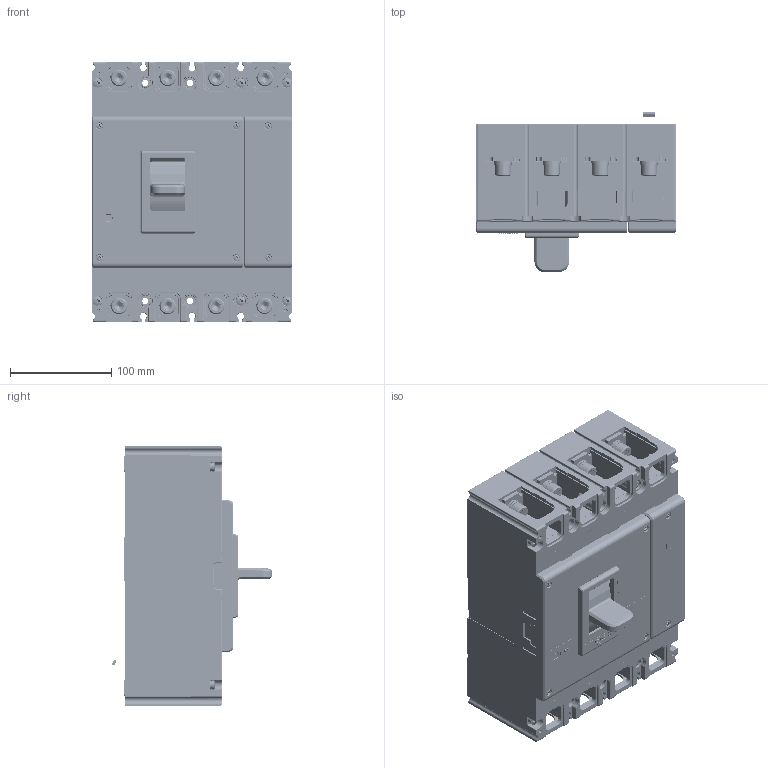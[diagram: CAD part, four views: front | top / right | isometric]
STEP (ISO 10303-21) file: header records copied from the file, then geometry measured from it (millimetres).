
FILE_DESCRIPTION((''),'2;1');
FILE_NAME('CDM3V-400-4300-400A_ASM','2021-06-18T',('zhenjiang.nong'),(''),'PRO/ENGINEER BY PARAMETRIC TECHNOLOGY CORPORATION, 2015440','PRO/ENGINEER BY PARAMETRIC TECHNOLOGY CORPORATION, 2015440','');
FILE_SCHEMA(('CONFIG_CONTROL_DESIGN'));
Products named in the file (81): JZ_5024044200_1; GB_T809-M5X16_2; 5024044200_ASM_1_ASM; 8940007800_2; MANIFOLD_SOLID_BREP_118325; MANIFOLD_SOLID_BREP_118465; 8551044200_2_ASM; 8595009000_2; GB_T109-3X6_AF0_2; 8550073900_2; 5551102500_AF2_ASM_2_ASM; 5551102500_AF3_ASM_2_ASM; GB_T109-3X6_AF1_2; 5551102500_AF0_ASM_2_ASM; GB_T109-3X6_AF2_2; 5551102500_AF1_ASM_2_ASM; 8585075300_1; MANIFOLD_SOLID_BREP_122314; MANIFOLD_SOLID_BREP_122464; 8505024500_1_ASM; 8585064700_1; 5510025000_ASM_1_ASM; 5203020000_ASM_1_ASM; 5551070600_ASM_2_ASM; MANIFOLD_SOLID_BREP_156627; 85050243P01_2_ASM; 8420028400_2; 8615032400_2; 8421200300_2; 7130130206_GB_T109_3X12_AF0_2; 7130130206_GB_T109_3X12_AF1_2; MANIFOLD_SOLID_BREP_165433; MANIFOLD_SOLID_BREP_165570; MANIFOLD_SOLID_BREP_165707; 8040026000_2_ASM; 5551070700_ASM_2_ASM; MANIFOLD_SOLID_BREP_210325; 85050243P02_2_ASM; 5551071400_ASM_1_ASM; 5551071500_ASM_1_ASM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
Assembly tree (170 placements, depth 7):
  CDM3V-400-4300-400A_ASM
    2253025900_ASM_1_ASM
      5295008700_ASM_1_ASM
        5024044200_ASM_1_ASM
          JZ_5024044200_1
          GB_T809-M5X16_2  x8
        8940007800_2  x8
        5551102500_AF2_ASM_2_ASM
          8551044200_2_ASM
            MANIFOLD_SOLID_BREP_118325
            MANIFOLD_SOLID_BREP_118465
          8595009000_2
          GB_T109-3X6_AF0_2
          8550073900_2
        5551102500_AF3_ASM_2_ASM
          8551044200_2_ASM
            MANIFOLD_SOLID_BREP_118325
            MANIFOLD_SOLID_BREP_118465
          8595009000_2
          GB_T109-3X6_AF0_2
          8550073900_2
        5551102500_AF0_ASM_2_ASM
          8551044200_2_ASM
            MANIFOLD_SOLID_BREP_118325
            MANIFOLD_SOLID_BREP_118465
          8595009000_2
          GB_T109-3X6_AF1_2
          8550073900_2
        5551102500_AF1_ASM_2_ASM
          8551044200_2_ASM
            MANIFOLD_SOLID_BREP_118325
            MANIFOLD_SOLID_BREP_118465
          8595009000_2
          GB_T109-3X6_AF2_2
          8550073900_2
        5510025000_ASM_1_ASM
          8585075300_1
          8505024500_1_ASM  x2
            MANIFOLD_SOLID_BREP_122314
            MANIFOLD_SOLID_BREP_122464
          8585064700_1
        5551071500_ASM_1_ASM
          5203020000_ASM_1_ASM
          5551070700_ASM_2_ASM  x3
            5551070600_ASM_2_ASM
            85050243P01_2_ASM
              MANIFOLD_SOLID_BREP_156627
            8420028400_2
            8615032400_2
            8421200300_2
            7130130206_GB_T109_3X12_AF0_2
            7130130206_GB_T109_3X12_AF1_2
            8040026000_2_ASM
              MANIFOLD_SOLID_BREP_165433
              MANIFOLD_SOLID_BREP_165570
              MANIFOLD_SOLID_BREP_165707
          5551071400_ASM_1_ASM
            5551070600_ASM_2_ASM
            8585064700_1
            85050243P02_2_ASM  x2
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Bounding box: 198 x 158.18 x 257 mm (x, y, z)
Volume: 1882407 mm3; surface area: 959679.8 mm2
Topology: 245 solids, 343 shells, 12434 faces, 32247 edges, 20525 vertices
Faces by surface type: plane 6969, cylinder 3643, torus 679, cone 507, sphere 239, extrusion 221, bspline 176
Entity records: 297263 total; most frequent: CARTESIAN_POINT 69658, ORIENTED_EDGE 47634, DIRECTION 46773, EDGE_CURVE 23857, VECTOR 16477, LINE 16256, VERTEX_POINT 15335, AXIS2_PLACEMENT_3D 15148
